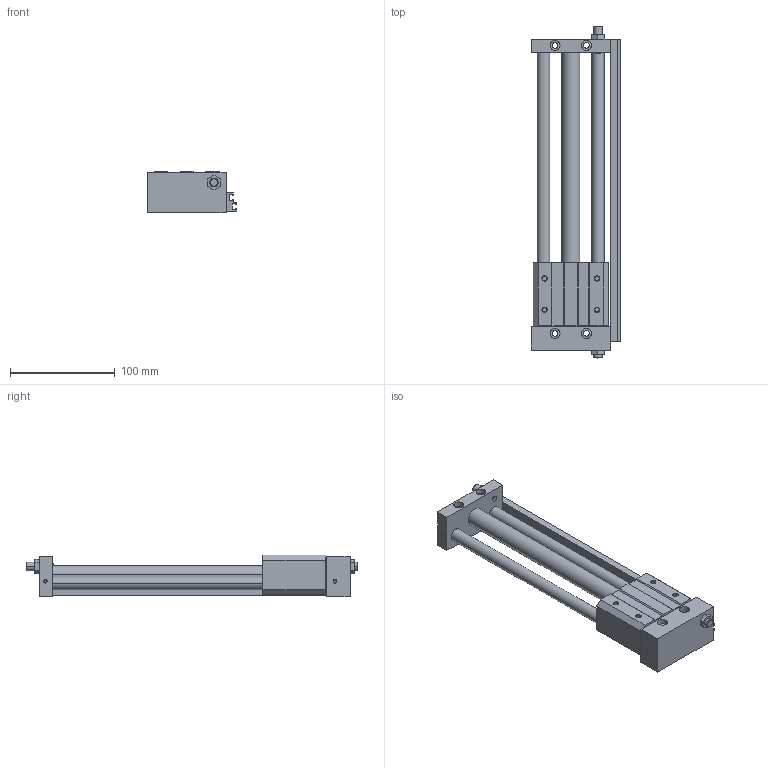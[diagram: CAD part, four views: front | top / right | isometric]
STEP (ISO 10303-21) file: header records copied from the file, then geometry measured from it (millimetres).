
FILE_DESCRIPTION((''),'2;1');
FILE_NAME('C:\Documents and Settings\Administrator\桌面\GYS\GYS15\GYSR15X200.stp','2012-03-05T10:55:33',('Administrator'),(''),'Autodesk Inventor 8','Autodesk Inventor 8','');
FILE_SCHEMA(('AUTOMOTIVE_DESIGN { 1 0 10303 214 1 1 1 1 }'));
Length unit declared in the file: millimetre
Products named in the file (3): GYSR15X200; GYS15X200; GYS15160X200
Assembly tree (2 placements, depth 2):
  GYSR15X200
    GYS15X200
    GYS15160X200
Bounding box: 85 x 317 x 40 mm (x, y, z)
Volume: 379712.7 mm3; surface area: 89544.7 mm2
Topology: 2 solids, 2 shells, 201 faces, 494 edges, 320 vertices
Faces by surface type: plane 107, cylinder 60, cone 28, bspline 6
Entity records: 6100 total; most frequent: CARTESIAN_POINT 1094, DIRECTION 1058, ORIENTED_EDGE 988, EDGE_CURVE 494, AXIS2_PLACEMENT_3D 364, VECTOR 330, LINE 330, VERTEX_POINT 320
